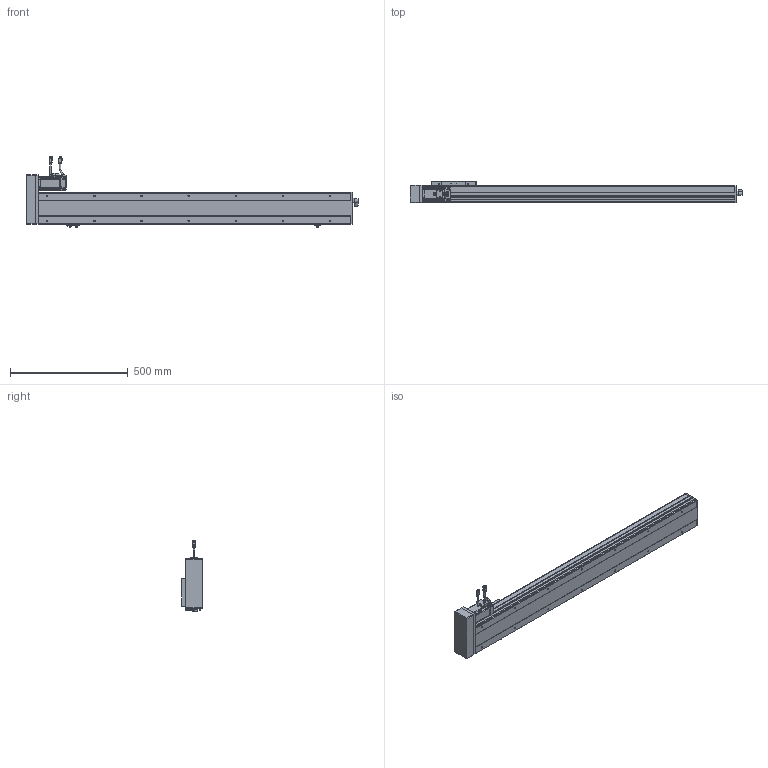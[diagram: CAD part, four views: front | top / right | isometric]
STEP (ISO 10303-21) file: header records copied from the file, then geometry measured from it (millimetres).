
FILE_DESCRIPTION(/* description */ ('STEP AP214'),/* implementation_level */ '2;1');
FILE_NAME(/* name */ 'PSC140-L05-S1050-BL-P40-C1-N(0)',/* time_stamp */ '2022-06-13T03:28:41+02:00',/* author */ ('License CC BY-ND 4.0'),/* organization */ ('CADENAS'),/* preprocessor_version */ 'ST-DEVELOPER v18.102',/* originating_system */ 'PARTsolutions',/* authorisation */ ' ');
FILE_SCHEMA (('AUTOMOTIVE_DESIGN {1 0 10303 214 3 1 1}'));
Length unit declared in the file: millimetre
Products named in the file (11): PSC140-L05-S1050-BL-P40-C1-N(0); P40-s2; P40-c2; P40-s1; P40-c1; P40-p1; PSC140-BL-body2; PSC140-sensor; PSC140-BL-SLIDER; PSC140-S1050-BL-P40-C1_BODY1; PSC140-L05-S1050-BL-P40-C1-N(0)_dummy
Assembly tree (12 placements, depth 2):
  PSC140-L05-S1050-BL-P40-C1-N(0)
    P40-s2
    P40-c2
    P40-s1
    P40-c1
    P40-p1
    PSC140-BL-body2
    PSC140-sensor  x3
    PSC140-BL-SLIDER
    PSC140-S1050-BL-P40-C1_BODY1
    PSC140-L05-S1050-BL-P40-C1-N(0)_dummy
Bounding box: 1408 x 91 x 300.88 mm (x, y, z)
Volume: 14178481.3 mm3; surface area: 807602.4 mm2
Topology: 11 solids, 11 shells, 1237 faces, 3189 edges, 2109 vertices
Faces by surface type: plane 860, cylinder 316, cone 42, torus 19
Full cylindrical faces by diameter (mm): 1 x8, 2.6 x10, 2.8 x3, 3.3 x8, 4.5 x12, 4.6 x3, 4.917 x18, 5 x4, 5.5 x8, 6 x10, 7 x10, 9 x2, 10 x1, 11 x1, 12 x1, 13.74 x1, 14 x1, 16.4 x2, 16.5 x1, 36 x1, 50 x2
Entity records: 34206 total; most frequent: CARTESIAN_POINT 5971, DIRECTION 5755, ORIENTED_EDGE 5546, EDGE_CURVE 2773, LINE 2097, VECTOR 2097, VERTEX_POINT 1930, AXIS2_PLACEMENT_3D 1829
